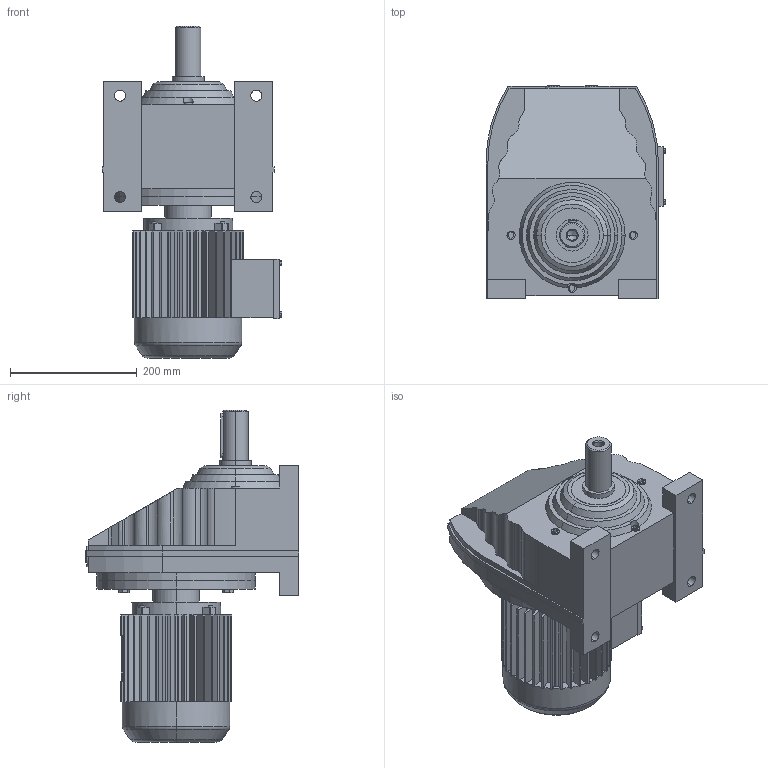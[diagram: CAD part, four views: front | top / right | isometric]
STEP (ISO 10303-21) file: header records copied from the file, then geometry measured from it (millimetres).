
FILE_DESCRIPTION(('Open CASCADE Model'),'2;1');
FILE_NAME('Open CASCADE Shape Model','2018-09-13T11:42:22',('Author'),( 'Open CASCADE'),'Open CASCADE STEP processor 6.3','Open CASCADE 6.3' ,'Unknown');
FILE_SCHEMA(('AUTOMOTIVE_DESIGN_CC2 { 1 2 10303 214 -1 1 5 4 }'));
Length unit declared in the file: millimetre
Products named in the file (3): 259_RX87-Y80M; RX57‵107_87.step; 萇儂_250_Y80M.step
Assembly tree (2 placements, depth 2):
  259_RX87-Y80M
    RX57‵107_87.step
    萇儂_250_Y80M.step
Bounding box: 284 x 337 x 524 mm (x, y, z)
Volume: 16572859.1 mm3; surface area: 801680.3 mm2
Topology: 2 solids, 2 shells, 630 faces, 1656 edges, 1069 vertices
Faces by surface type: plane 425, cylinder 184, cone 17, torus 4
Entity records: 42644 total; most frequent: CARTESIAN_POINT 11388, DIRECTION 5388, ORIENTED_EDGE 3308, PCURVE 3308, DEFINITIONAL_REPRESENTATION 3308, LINE 2836, VECTOR 2836, EDGE_CURVE 1654
